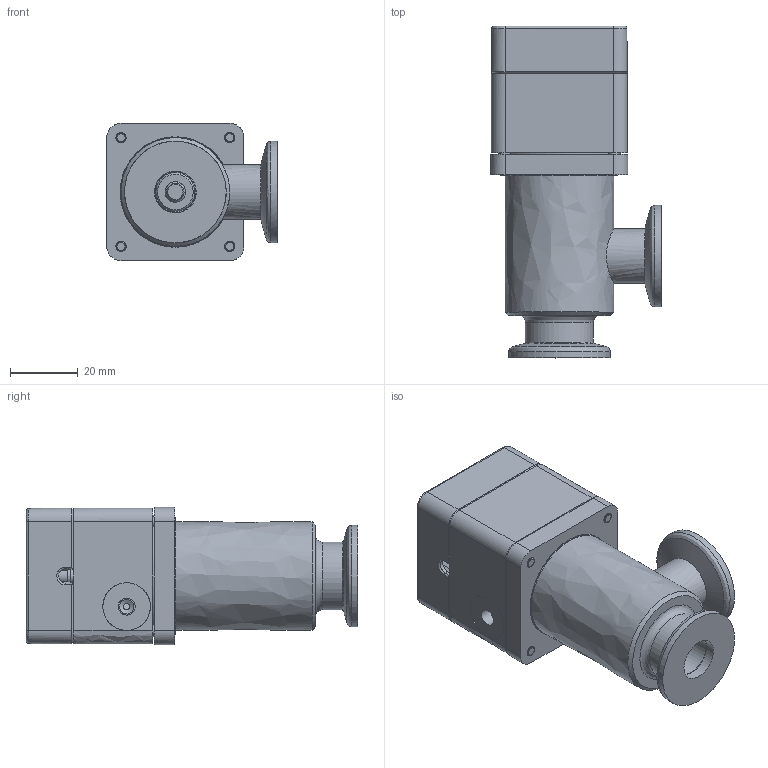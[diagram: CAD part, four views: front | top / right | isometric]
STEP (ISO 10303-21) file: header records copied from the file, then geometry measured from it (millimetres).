
FILE_DESCRIPTION((''),'2;1');
FILE_NAME('C:\TEMP\IDEAS\353689.stp','2007-11-06T10:43:27',('User'),( 'SDRC'),'I-DEAS Master Series 9','UNIX','Yes');
FILE_SCHEMA(('CONFIG_CONTROL_DESIGN'));
Length unit declared in the file: millimetre
Assembly tree (14 placements, depth 0):
Bounding box: 50.2 x 97.7 x 40.4 mm (x, y, z)
Volume: 34396.2 mm3; surface area: 42033 mm2
Topology: 11 solids, 13 shells, 490 faces, 1206 edges, 777 vertices
Faces by surface type: bspline 490
Entity records: 16561 total; most frequent: CARTESIAN_POINT 8625, ORIENTED_EDGE 2159, EDGE_CURVE 1081, VERTEX_POINT 696, EDGE_LOOP 507, FACE_OUTER_BOUND 433, ADVANCED_FACE 433, QUASI_UNIFORM_CURVE 391
